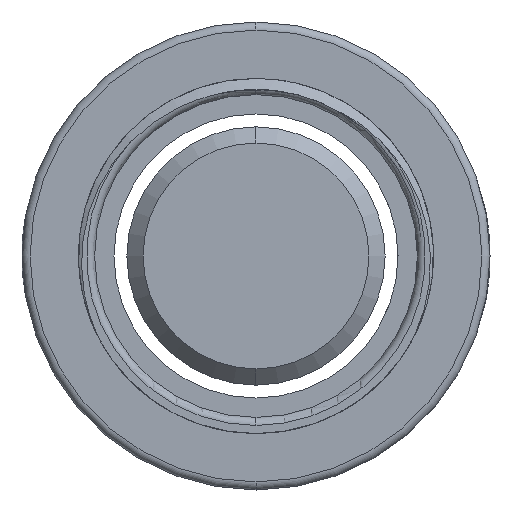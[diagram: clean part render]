
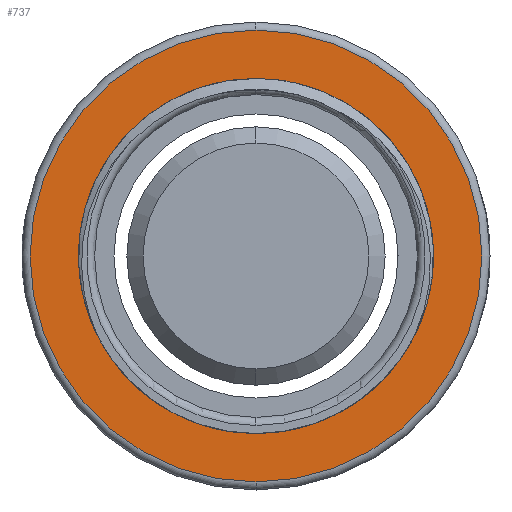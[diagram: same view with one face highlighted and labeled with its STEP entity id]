
A CAD part, left-side view. The second image highlights one B-rep face of the part: STEP entity #737.
In plain terms, the highlighted planar face has unit normal (-1, 0, 0).
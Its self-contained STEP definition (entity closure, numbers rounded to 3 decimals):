
#2 = VERTEX_POINT ( 'NONE', #1916 ) ;
#28 = CARTESIAN_POINT ( 'NONE',  ( 8., 0., 0. ) ) ;
#45 = DIRECTION ( 'NONE',  ( 0., 0., -1. ) ) ;
#170 = FACE_BOUND ( 'NONE', #754, .T. ) ;
#213 = DIRECTION ( 'NONE',  ( -1., 0., 0. ) ) ;
#313 = EDGE_CURVE ( 'NONE', #1165, #2, #2396, .T. ) ;
#344 = DIRECTION ( 'NONE',  ( -1., 0., 0. ) ) ;
#492 = CARTESIAN_POINT ( 'NONE',  ( 8., 0., -10. ) ) ;
#505 = CIRCLE ( 'NONE', #1095, 10. ) ;
#563 = ORIENTED_EDGE ( 'NONE', *, *, #313, .T. ) ;
#570 = EDGE_CURVE ( 'NONE', #2, #1165, #1352, .T. ) ;
#591 = FACE_OUTER_BOUND ( 'NONE', #2057, .T. ) ;
#693 = VERTEX_POINT ( 'NONE', #1951 ) ;
#737 = ADVANCED_FACE ( 'NONE', ( #591, #170 ), #843, .F. ) ;
#754 = EDGE_LOOP ( 'NONE', ( #1598, #1506 ) ) ;
#818 = DIRECTION ( 'NONE',  ( 0., 0., -1. ) ) ;
#828 = CARTESIAN_POINT ( 'NONE',  ( 8., 0., 0. ) ) ;
#843 = PLANE ( 'NONE',  #1538 ) ;
#875 = DIRECTION ( 'NONE',  ( 0., 0., -1. ) ) ;
#974 = EDGE_CURVE ( 'NONE', #693, #2459, #505, .T. ) ;
#1071 = DIRECTION ( 'NONE',  ( -1., 0., 0. ) ) ;
#1095 = AXIS2_PLACEMENT_3D ( 'NONE', #1720, #1153, #2278 ) ;
#1117 = DIRECTION ( 'NONE',  ( 0., 0., 1. ) ) ;
#1123 = CARTESIAN_POINT ( 'NONE',  ( 8., 0., 0. ) ) ;
#1153 = DIRECTION ( 'NONE',  ( -1., 0., 0. ) ) ;
#1165 = VERTEX_POINT ( 'NONE', #1984 ) ;
#1352 = CIRCLE ( 'NONE', #2042, 14. ) ;
#1401 = EDGE_CURVE ( 'NONE', #2459, #693, #1894, .T. ) ;
#1506 = ORIENTED_EDGE ( 'NONE', *, *, #974, .F. ) ;
#1538 = AXIS2_PLACEMENT_3D ( 'NONE', #828, #2151, #45 ) ;
#1598 = ORIENTED_EDGE ( 'NONE', *, *, #1401, .F. ) ;
#1720 = CARTESIAN_POINT ( 'NONE',  ( 8., 0., 0. ) ) ;
#1807 = ORIENTED_EDGE ( 'NONE', *, *, #570, .T. ) ;
#1832 = AXIS2_PLACEMENT_3D ( 'NONE', #2400, #1071, #875 ) ;
#1894 = CIRCLE ( 'NONE', #2028, 10. ) ;
#1916 = CARTESIAN_POINT ( 'NONE',  ( 8., 0., -14. ) ) ;
#1951 = CARTESIAN_POINT ( 'NONE',  ( 8., 0., 10. ) ) ;
#1984 = CARTESIAN_POINT ( 'NONE',  ( 8., 0., 14. ) ) ;
#2028 = AXIS2_PLACEMENT_3D ( 'NONE', #1123, #344, #1117 ) ;
#2042 = AXIS2_PLACEMENT_3D ( 'NONE', #28, #213, #818 ) ;
#2057 = EDGE_LOOP ( 'NONE', ( #1807, #563 ) ) ;
#2151 = DIRECTION ( 'NONE',  ( 1., 0., 0. ) ) ;
#2278 = DIRECTION ( 'NONE',  ( 0., 0., 1. ) ) ;
#2396 = CIRCLE ( 'NONE', #1832, 14. ) ;
#2400 = CARTESIAN_POINT ( 'NONE',  ( 8., 0., 0. ) ) ;
#2459 = VERTEX_POINT ( 'NONE', #492 ) ;
